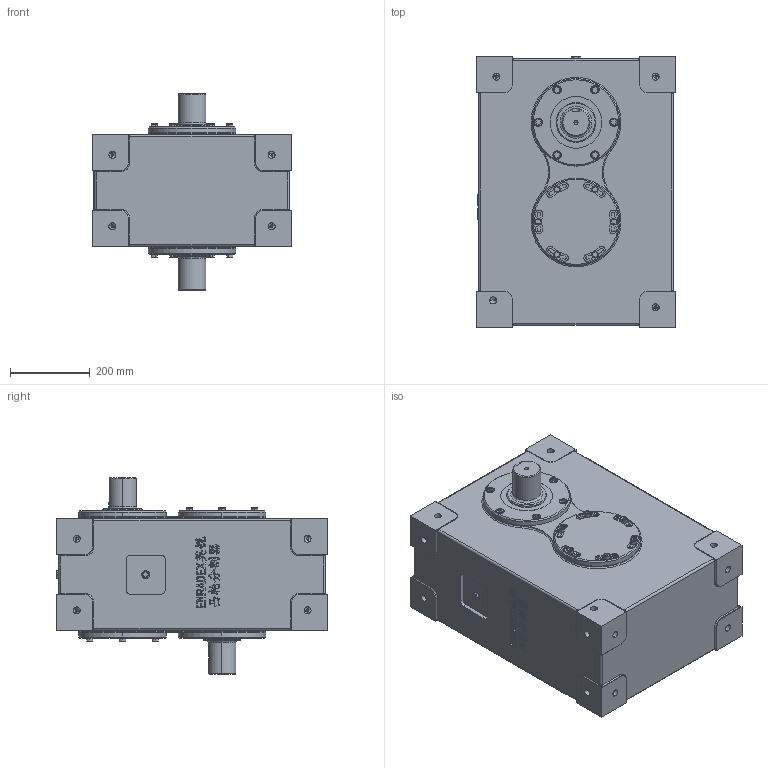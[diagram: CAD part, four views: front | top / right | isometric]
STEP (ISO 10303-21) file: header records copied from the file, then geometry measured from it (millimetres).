
FILE_DESCRIPTION (( 'STEP AP214' ), '1' );
FILE_NAME ('ER-PU250DS英锐凸轮分割器3D标准图纸(电话15062628977)A.STEP', '2022-10-27T09:40:25', ( '微软用户' ), ( '微软中国' ), 'SwSTEP 2.0', 'SolidWorks 2017', '' );
FILE_SCHEMA (( 'AUTOMOTIVE_DESIGN' ));
Length unit declared in the file: millimetre
Products named in the file (1): ER-PU250DS英锐凸轮分割器3D标准图纸(电话15062628977)A
Bounding box: 500 x 680.75 x 493 mm (x, y, z)
Volume: 95897840.8 mm3; surface area: 1625379.9 mm2
Topology: 1 solids, 3 shells, 1250 faces, 3144 edges, 1999 vertices
Faces by surface type: plane 509, cylinder 404, bspline 261, cone 76
Entity records: 62850 total; most frequent: CARTESIAN_POINT 26578, ORIENTED_EDGE 6256, DIRECTION 5589, EDGE_CURVE 3128, AXIS2_PLACEMENT_3D 2022, VERTEX_POINT 1999, LINE 1545, VECTOR 1545
